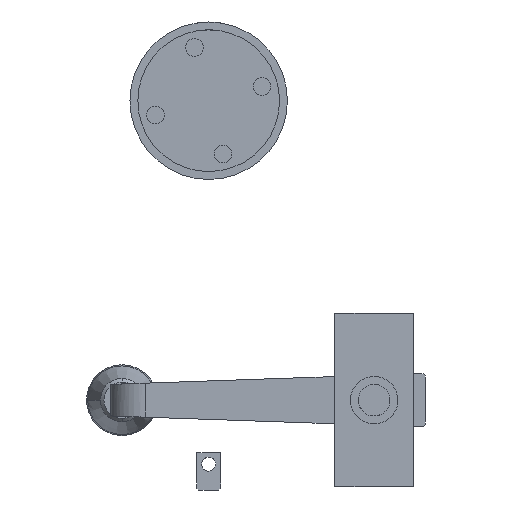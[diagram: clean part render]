
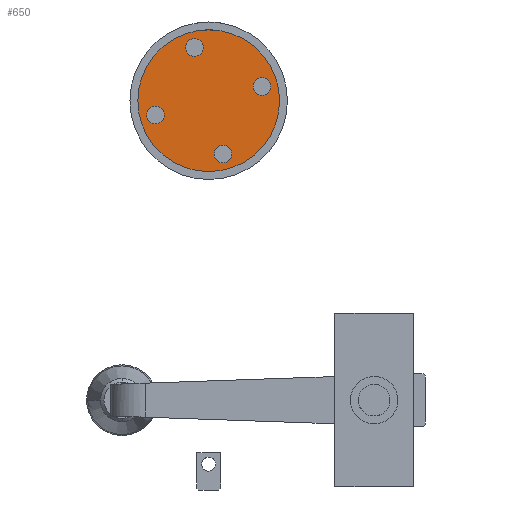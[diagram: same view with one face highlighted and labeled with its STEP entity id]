
A CAD part, front view. The second image highlights one B-rep face of the part: STEP entity #650.
In plain terms, the highlighted planar face has unit normal (0, -1, 0).
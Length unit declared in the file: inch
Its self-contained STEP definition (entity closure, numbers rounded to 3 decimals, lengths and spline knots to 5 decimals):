
#15 = CARTESIAN_POINT ( 'NONE',  ( -0.84519, 0., -0.22647 ) ) ;
#29 = CIRCLE ( 'NONE', #5228, 0.1406 ) ;
#44 = CARTESIAN_POINT ( 'NONE',  ( 0., 0., 1.12415 ) ) ;
#95 = CARTESIAN_POINT ( 'NONE',  ( -0.22647, 0., 0.70459 ) ) ;
#168 = DIRECTION ( 'NONE',  ( 0., 0., 1. ) ) ;
#177 = CARTESIAN_POINT ( 'NONE',  ( -0.84519, 0., -0.36707 ) ) ;
#350 = VERTEX_POINT ( 'NONE', #5401 ) ;
#356 = DIRECTION ( 'NONE',  ( 0., 0., 1. ) ) ;
#360 = AXIS2_PLACEMENT_3D ( 'NONE', #3661, #4688, #716 ) ;
#378 = EDGE_CURVE ( 'NONE', #1949, #2566, #2993, .T. ) ;
#467 = DIRECTION ( 'NONE',  ( 0., 1., 0. ) ) ;
#650 = ADVANCED_FACE ( 'NONE', ( #5884, #3759, #902, #5430, #4608 ), #4583, .F. ) ;
#713 = EDGE_LOOP ( 'NONE', ( #6289, #800 ) ) ;
#716 = DIRECTION ( 'NONE',  ( 0., 0., 1. ) ) ;
#800 = ORIENTED_EDGE ( 'NONE', *, *, #378, .T. ) ;
#806 = EDGE_CURVE ( 'NONE', #3163, #5604, #1841, .T. ) ;
#882 = AXIS2_PLACEMENT_3D ( 'NONE', #6292, #1366, #5803 ) ;
#902 = FACE_BOUND ( 'NONE', #2710, .T. ) ;
#908 = CARTESIAN_POINT ( 'NONE',  ( 0.22647, 0., -0.70459 ) ) ;
#1151 = DIRECTION ( 'NONE',  ( 0., 0., 1. ) ) ;
#1182 = DIRECTION ( 'NONE',  ( 0., 0., 1. ) ) ;
#1366 = DIRECTION ( 'NONE',  ( 0., 1., 0. ) ) ;
#1368 = DIRECTION ( 'NONE',  ( 0., 1., 0. ) ) ;
#1386 = CARTESIAN_POINT ( 'NONE',  ( 0., 0., 0. ) ) ;
#1522 = CIRCLE ( 'NONE', #1679, 0.1406 ) ;
#1593 = VERTEX_POINT ( 'NONE', #4975 ) ;
#1675 = DIRECTION ( 'NONE',  ( 1., 0., 0. ) ) ;
#1679 = AXIS2_PLACEMENT_3D ( 'NONE', #2421, #467, #3904 ) ;
#1841 = CIRCLE ( 'NONE', #6029, 0.1406 ) ;
#1949 = VERTEX_POINT ( 'NONE', #177 ) ;
#2003 = DIRECTION ( 'NONE',  ( 0., 1., 0. ) ) ;
#2036 = EDGE_LOOP ( 'NONE', ( #3482, #4996 ) ) ;
#2068 = AXIS2_PLACEMENT_3D ( 'NONE', #3575, #2606, #1675 ) ;
#2080 = DIRECTION ( 'NONE',  ( 0., 1., 0. ) ) ;
#2191 = EDGE_CURVE ( 'NONE', #2566, #1949, #1522, .T. ) ;
#2218 = AXIS2_PLACEMENT_3D ( 'NONE', #4214, #2262, #2755 ) ;
#2262 = DIRECTION ( 'NONE',  ( 0., 1., 0. ) ) ;
#2413 = VERTEX_POINT ( 'NONE', #4636 ) ;
#2421 = CARTESIAN_POINT ( 'NONE',  ( -0.84519, 0., -0.22647 ) ) ;
#2428 = AXIS2_PLACEMENT_3D ( 'NONE', #15, #2003, #6356 ) ;
#2566 = VERTEX_POINT ( 'NONE', #2867 ) ;
#2606 = DIRECTION ( 'NONE',  ( 0., 1., 0. ) ) ;
#2632 = EDGE_CURVE ( 'NONE', #1593, #4515, #4274, .T. ) ;
#2698 = EDGE_LOOP ( 'NONE', ( #3248, #5552 ) ) ;
#2710 = EDGE_LOOP ( 'NONE', ( #5542, #5489 ) ) ;
#2755 = DIRECTION ( 'NONE',  ( 0., 0., 1. ) ) ;
#2758 = DIRECTION ( 'NONE',  ( 0., 1., 0. ) ) ;
#2867 = CARTESIAN_POINT ( 'NONE',  ( -0.84519, 0., -0.08587 ) ) ;
#2993 = CIRCLE ( 'NONE', #2428, 0.1406 ) ;
#3163 = VERTEX_POINT ( 'NONE', #908 ) ;
#3248 = ORIENTED_EDGE ( 'NONE', *, *, #2632, .F. ) ;
#3309 = VERTEX_POINT ( 'NONE', #95 ) ;
#3482 = ORIENTED_EDGE ( 'NONE', *, *, #3871, .T. ) ;
#3575 = CARTESIAN_POINT ( 'NONE',  ( 0., 0., 0. ) ) ;
#3636 = CARTESIAN_POINT ( 'NONE',  ( 0.22647, 0., -0.84519 ) ) ;
#3661 = CARTESIAN_POINT ( 'NONE',  ( 0., 0., 0. ) ) ;
#3759 = FACE_BOUND ( 'NONE', #6149, .T. ) ;
#3871 = EDGE_CURVE ( 'NONE', #2413, #3309, #29, .T. ) ;
#3904 = DIRECTION ( 'NONE',  ( 0., 0., 1. ) ) ;
#4144 = ORIENTED_EDGE ( 'NONE', *, *, #5687, .T. ) ;
#4192 = EDGE_CURVE ( 'NONE', #4802, #350, #6154, .T. ) ;
#4214 = CARTESIAN_POINT ( 'NONE',  ( -0.22647, 0., 0.84519 ) ) ;
#4274 = CIRCLE ( 'NONE', #5597, 1.12415 ) ;
#4297 = CARTESIAN_POINT ( 'NONE',  ( 0.84519, 0., 0.08587 ) ) ;
#4309 = EDGE_CURVE ( 'NONE', #350, #4802, #4781, .T. ) ;
#4382 = ORIENTED_EDGE ( 'NONE', *, *, #806, .T. ) ;
#4515 = VERTEX_POINT ( 'NONE', #44 ) ;
#4583 = PLANE ( 'NONE',  #2068 ) ;
#4608 = FACE_BOUND ( 'NONE', #713, .T. ) ;
#4636 = CARTESIAN_POINT ( 'NONE',  ( -0.22647, 0., 0.98579 ) ) ;
#4688 = DIRECTION ( 'NONE',  ( 0., 1., 0. ) ) ;
#4715 = EDGE_CURVE ( 'NONE', #4515, #1593, #4924, .T. ) ;
#4757 = EDGE_CURVE ( 'NONE', #3309, #2413, #5233, .T. ) ;
#4781 = CIRCLE ( 'NONE', #882, 0.1406 ) ;
#4802 = VERTEX_POINT ( 'NONE', #4297 ) ;
#4852 = CIRCLE ( 'NONE', #6014, 0.1406 ) ;
#4924 = CIRCLE ( 'NONE', #360, 1.12415 ) ;
#4975 = CARTESIAN_POINT ( 'NONE',  ( 0., 0., -1.12415 ) ) ;
#4996 = ORIENTED_EDGE ( 'NONE', *, *, #4757, .T. ) ;
#5099 = CARTESIAN_POINT ( 'NONE',  ( 0.22647, 0., -0.84519 ) ) ;
#5160 = DIRECTION ( 'NONE',  ( 0., 1., 0. ) ) ;
#5228 = AXIS2_PLACEMENT_3D ( 'NONE', #5783, #1368, #5236 ) ;
#5233 = CIRCLE ( 'NONE', #2218, 0.1406 ) ;
#5236 = DIRECTION ( 'NONE',  ( 0., 0., 1. ) ) ;
#5401 = CARTESIAN_POINT ( 'NONE',  ( 0.84519, 0., 0.36707 ) ) ;
#5430 = FACE_BOUND ( 'NONE', #2036, .T. ) ;
#5489 = ORIENTED_EDGE ( 'NONE', *, *, #4192, .T. ) ;
#5542 = ORIENTED_EDGE ( 'NONE', *, *, #4309, .T. ) ;
#5552 = ORIENTED_EDGE ( 'NONE', *, *, #4715, .F. ) ;
#5597 = AXIS2_PLACEMENT_3D ( 'NONE', #1386, #2758, #356 ) ;
#5603 = CARTESIAN_POINT ( 'NONE',  ( 0.84519, 0., 0.22647 ) ) ;
#5604 = VERTEX_POINT ( 'NONE', #6278 ) ;
#5687 = EDGE_CURVE ( 'NONE', #5604, #3163, #4852, .T. ) ;
#5783 = CARTESIAN_POINT ( 'NONE',  ( -0.22647, 0., 0.84519 ) ) ;
#5803 = DIRECTION ( 'NONE',  ( 0., 0., 1. ) ) ;
#5884 = FACE_OUTER_BOUND ( 'NONE', #2698, .T. ) ;
#6014 = AXIS2_PLACEMENT_3D ( 'NONE', #5099, #2080, #1151 ) ;
#6024 = DIRECTION ( 'NONE',  ( 0., 1., 0. ) ) ;
#6029 = AXIS2_PLACEMENT_3D ( 'NONE', #3636, #5160, #1182 ) ;
#6149 = EDGE_LOOP ( 'NONE', ( #4382, #4144 ) ) ;
#6154 = CIRCLE ( 'NONE', #6254, 0.1406 ) ;
#6254 = AXIS2_PLACEMENT_3D ( 'NONE', #5603, #6024, #168 ) ;
#6278 = CARTESIAN_POINT ( 'NONE',  ( 0.22647, 0., -0.98579 ) ) ;
#6289 = ORIENTED_EDGE ( 'NONE', *, *, #2191, .T. ) ;
#6292 = CARTESIAN_POINT ( 'NONE',  ( 0.84519, 0., 0.22647 ) ) ;
#6356 = DIRECTION ( 'NONE',  ( 0., 0., 1. ) ) ;
